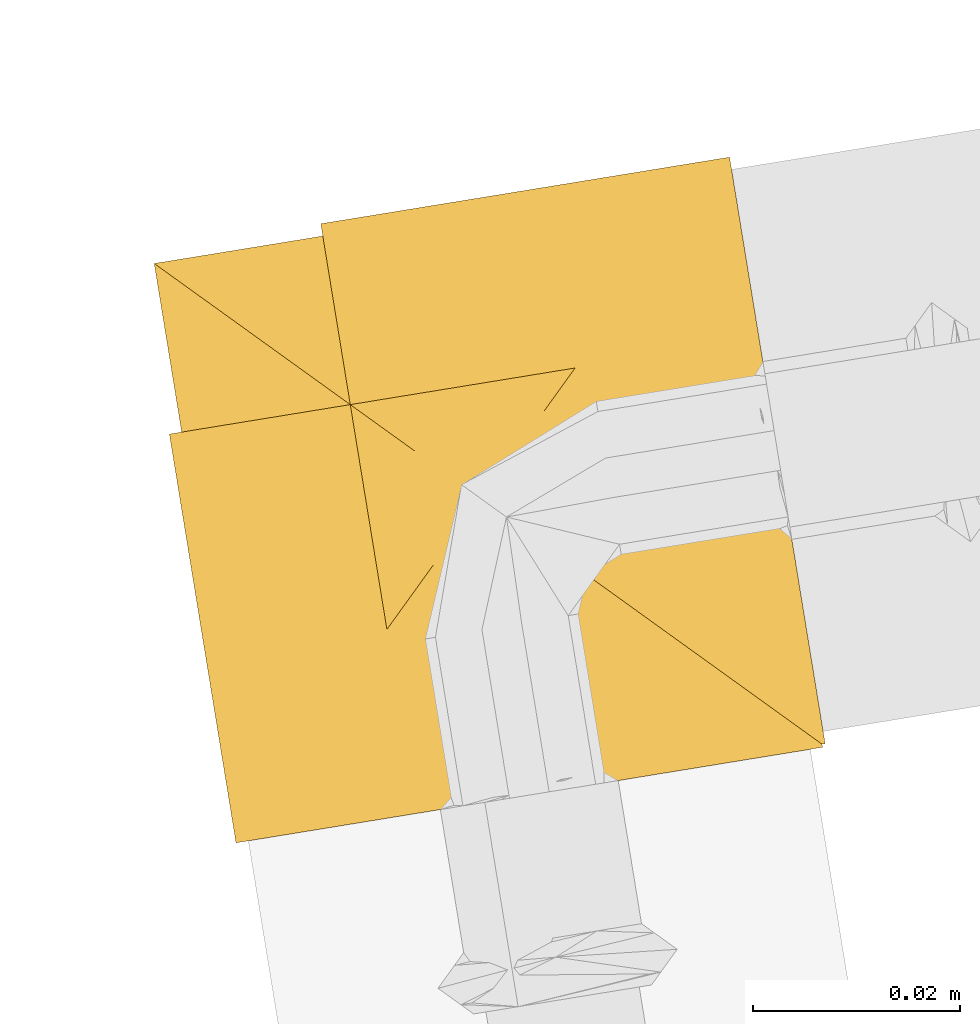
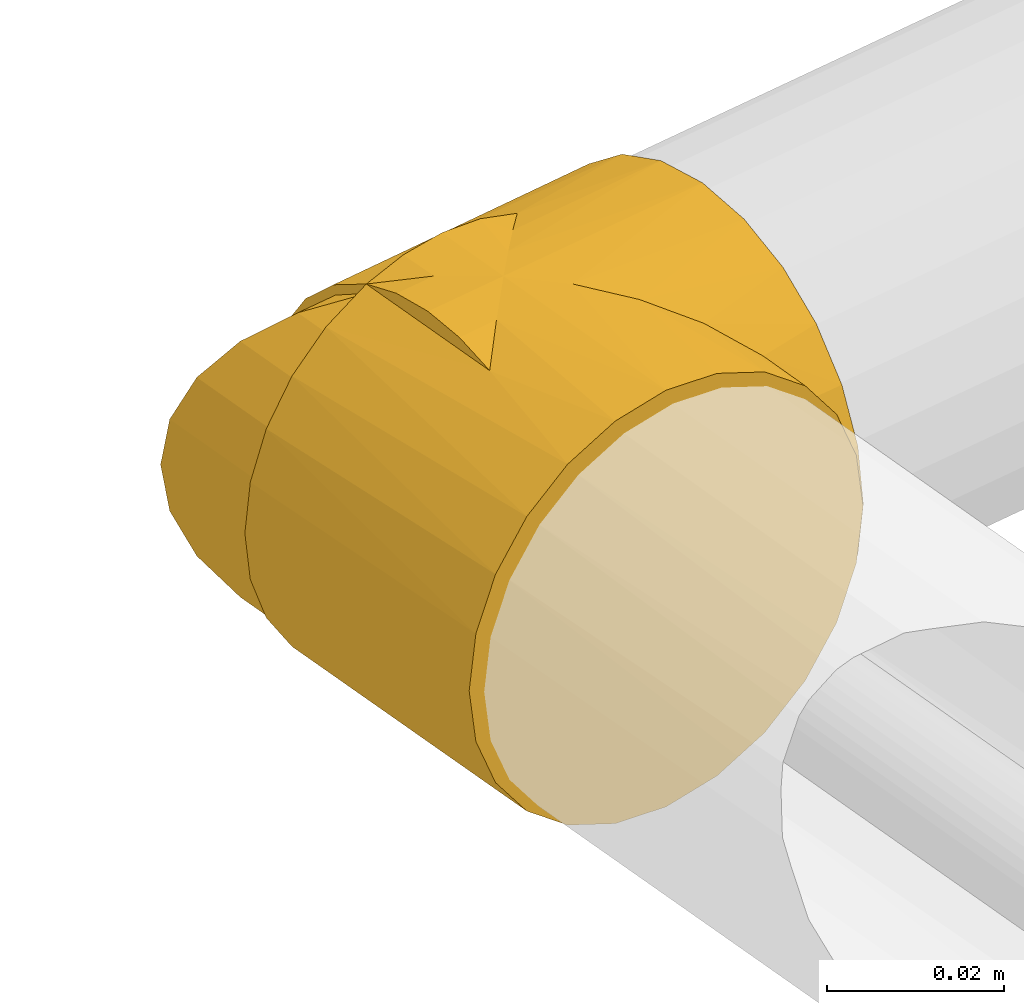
# One storey, part 16 of 46: 1 covering.
"""IFC2X3 building model written with IfcOpenShell, lengths in millimetres."""

from ifc_helpers import new_model, entity, si_unit, converted_unit, derived_unit, direction, frame, origin, origin_with_axes, place, context, subcontext, project, spatial, faceted_brep, material, type_object, element, save


model = new_model("IFC2X3")

# Units and contexts
model_context = context("Model", 3, precision=0.01, world=origin(), true_north=direction((6.12323399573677e-17, 1.0)))
plan_context = context("Plan", 3, precision=1e-05, world=origin_with_axes())
body_context = subcontext(model_context, "Body", "Model", "MODEL_VIEW")
ifc_project = project(units=[converted_unit("PLANEANGLEUNIT", "DEGREE", entity("IfcPositiveLengthMeasure", 0.0174532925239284), si_unit("PLANEANGLEUNIT", "RADIAN"), dimensions=[0, 0, 0, 0, 0, 0, 0]), si_unit("AREAUNIT", "SQUARE_METRE"), si_unit("LENGTHUNIT", "METRE", prefix="MILLI"), si_unit("MASSUNIT", "GRAM", prefix="KILO"), si_unit("POWERUNIT", "WATT"), si_unit("PRESSUREUNIT", "PASCAL", prefix="KILO"), si_unit("FORCEUNIT", "NEWTON", prefix="KILO"), si_unit("ELECTRICVOLTAGEUNIT", "VOLT"), si_unit("ELECTRICCURRENTUNIT", "AMPERE"), si_unit("THERMODYNAMICTEMPERATUREUNIT", "DEGREE_CELSIUS"), si_unit("TIMEUNIT", "SECOND"), si_unit("VOLUMEUNIT", "CUBIC_METRE"), derived_unit("LINEARVELOCITYUNIT", [(si_unit("LENGTHUNIT", "METRE"), 1), (si_unit("TIMEUNIT", "SECOND"), -1)]), derived_unit("VOLUMETRICFLOWRATEUNIT", [(si_unit("VOLUMEUNIT", "CUBIC_METRE"), 1), (si_unit("TIMEUNIT", "SECOND"), -1)]), derived_unit("THERMALTRANSMITTANCEUNIT", [(si_unit("POWERUNIT", "WATT"), 1), (si_unit("THERMODYNAMICTEMPERATUREUNIT", "KELVIN"), -1), (si_unit("AREAUNIT", "SQUARE_METRE"), -1)]), derived_unit("SOUNDPRESSUREUNIT", [(si_unit("PRESSUREUNIT", "PASCAL"), 1)])], contexts=[model_context, plan_context])

# Site, building, storey
site_placement = place(None, frame((-3.09682673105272e-06, 1.93776733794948e-05, 0.0), z_axis=(0.0, 0.0, 1.0), x_axis=(-0.160806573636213, 0.986985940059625, 0.0)))
site = spatial("IfcSite", under=ifc_project, at=site_placement, Name="Default", CompositionType="ELEMENT")
building_placement = place(site_placement, frame((0.0, 0.0, 0.0), z_axis=(0.0, 0.0, 1.0), x_axis=(1.0, -2.77555756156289e-17, 0.0)))
building = spatial("IfcBuilding", under=site, at=building_placement, Name="Bygning (endres i Project Information)", CompositionType="ELEMENT")
storey_placement = place(building_placement, frame((0.0, 0.0, 51360.0000000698), z_axis=(0.0, 0.0, 1.0), x_axis=(1.0, -2.77555756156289e-17, 0.0)))
storey = spatial("IfcBuildingStorey", under=building, at=storey_placement, Name="H01-Nivå D+0,36", CompositionType="ELEMENT", Elevation=51360.0000000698)

# Covering
ifc_material = material(Name="3200.002 Retur")
covering_type = type_object("IfcCoveringType", Name="Pipe Insulation:GLAVA Rørskål ClimPipe Alu2, isol.kl.4, 45°C", PredefinedType="INSULATION")
covering_placement = place(storey_placement, frame((1008456.80431555, -353521.375411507, 3419.70472776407), z_axis=(0.0, 0.0, 1.0), x_axis=(1.0, -2.77555756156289e-17, 0.0)))
element("IfcCovering", 1, at=covering_placement, inside=storey, type_object=covering_type, material=ifc_material, Name="Pipe Insulation:GLAVA Rørskål ClimPipe Alu2, isol.kl.4, 45°C", ObjectType="Pipe Insulation:GLAVA Rørskål ClimPipe Alu2, isol.kl.4, 45°C", PredefinedType="INSULATION", context=body_context, shape_type="Brep", body=[
    faceted_brep([(24.7416617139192, 35.8488827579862, 2.13772599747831), (1.29527223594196, 30.2952722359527, 1.5952722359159), (1.29527223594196, 37.7233788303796, 2.57320102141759), (19.2952722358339, 41.2952722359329, 3.78697164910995), (1.29527223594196, 44.6452722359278, 5.44034314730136), (41.2952722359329, 47.174961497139, 7.083936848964), (23.1326814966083, 37.4578629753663, 2.62494852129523), (30.2952722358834, 30.2952722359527, 1.5952722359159), (35.8488827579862, 35.8488827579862, 2.13772599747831), (41.2952722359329, 30.2952722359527, 1.5952722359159), (36.1408637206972, 30.2952722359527, 1.5952722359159), (41.2952722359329, 41.2952722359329, 3.78697164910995), (1.29527223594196, 50.5892368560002, 10.0013076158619), (41.2952722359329, 52.1237458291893, 11.6617610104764), (1.29527223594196, 55.1502013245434, 15.945272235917), (41.2952722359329, 55.8686217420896, 17.2686151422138), (1.29527223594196, 58.0173434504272, 22.8671656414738), (41.2952722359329, 58.202154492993, 23.5948302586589), (1.29527223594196, 58.9952722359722, 30.295272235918), (41.2952722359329, 58.9952722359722, 30.295272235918), (41.2952722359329, 58.202154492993, 36.9957142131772), (1.29527223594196, 58.0173434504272, 37.7233788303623), (1.29527223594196, 55.1502013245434, 44.6452722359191), (1.29527223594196, 50.5892368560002, 50.5892368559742), (41.2952722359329, 52.1237458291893, 48.9287834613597), (41.2952722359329, 55.8686217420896, 43.3219293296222), (41.2952722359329, 47.174961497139, 53.5066076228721), (1.29527223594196, 44.6452722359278, 55.1502013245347), (19.2952722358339, 41.2952722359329, 56.8035728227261), (1.29527223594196, 37.7233788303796, 58.0173434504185), (24.7416617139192, 35.8488827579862, 58.4528184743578), (23.1326815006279, 37.4578629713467, 57.965595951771), (1.29527223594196, 30.2952722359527, 58.9952722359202), (41.2952722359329, 41.2952722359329, 56.8035728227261), (30.2952722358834, 30.2952722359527, 58.9952722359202), (35.8488827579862, 35.8488827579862, 58.4528184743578), (36.1408640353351, 30.2952722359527, 58.9952722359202), (41.2952722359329, 30.2952722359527, 58.9952722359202), (24.7843162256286, 24.7843162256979, 58.4611978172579), (1.29527223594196, 22.8671656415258, 58.0173434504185), (1.29527223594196, 2.93159378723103, 38.5886155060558), (2.63637773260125, 2.63637773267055, 37.9552692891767), (2.98876332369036, 2.98876332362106, 38.7947891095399), (1.29527223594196, 3.28998655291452, 39.4538521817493), (19.3782398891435, 19.3782398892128, 56.8378494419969), (1.29527223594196, 15.9452722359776, 55.1502013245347), (1.29527223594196, 2.45095992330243, 36.7948655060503), (2.441170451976, 2.4411704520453, 36.5190198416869), (2.50623954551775, 2.50623954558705, 36.9977696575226), (1.29527223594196, 2.26759827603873, 35.4020955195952), (2.24596317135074, 2.24596317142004, 35.0827703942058), (2.31103226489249, 2.3110322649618, 35.5615202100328), (14.2100303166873, 14.2100303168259, 54.0640541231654), (1.29527223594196, 2.38983937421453, 36.3306088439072), (2.37610135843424, 2.37610135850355, 36.0402700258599), (1.29527223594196, 10.0013076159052, 50.5892368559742), (2.18089407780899, 2.18089407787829, 34.6040205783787), (1.29527223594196, 2.20647772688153, 34.9378388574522), (1.29527223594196, 2.14535717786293, 34.4735821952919), (1.29527223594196, 5.440343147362, 44.6452722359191), (9.46959024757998, 9.46959024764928, 50.0432080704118), (1.29527223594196, 4.00677208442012, 41.1843255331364), (3.34114891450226, 3.34114891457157, 39.6343089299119), (4.04592009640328, 4.04592009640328, 41.3133485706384), (1.29527223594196, 2.57320102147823, 37.7233788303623), (1.29527223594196, 2.08423662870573, 34.0093255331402), (2.05075589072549, 2.05075589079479, 33.6465209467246), (2.11582498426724, 2.11582498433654, 34.1252707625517), (1.29527223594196, 1.83975443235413, 32.1522988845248), (1.79047951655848, 1.79047951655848, 31.7315216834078), (1.85554861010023, 1.85554861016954, 32.2102714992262), (5.4554624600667, 5.455462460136, 44.6714278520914), (1.29527223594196, 2.32871882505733, 35.8663521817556), (1.29527223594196, 1.71751333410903, 31.2237855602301), (1.66034132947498, 1.66034132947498, 30.7740220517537), (1.72541042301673, 1.72541042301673, 31.2527718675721), (1.29527223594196, 1.90087498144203, 32.6165555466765), (1.98568679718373, 1.98568679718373, 33.1677711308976), (1.29527223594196, 2.02311607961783, 33.5450688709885), (1.29527223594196, 1.96199553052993, 33.0808122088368), (1.92061770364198, 1.92061770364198, 32.6890213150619), (1.29527223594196, 1.65639278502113, 30.7595288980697), (1.59527223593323, 1.59527223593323, 30.295272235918), (1.29527223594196, 1.77863388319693, 31.6880422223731), (1.29527223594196, 1.59527223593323, 30.295272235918), (41.2952722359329, 19.2952722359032, 3.78697164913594), (37.6827247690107, 22.9078197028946, 2.56233973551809), (41.2952722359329, 24.6773873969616, 2.15047929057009), (34.0045098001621, 26.586034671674, 1.83597574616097), (41.2952722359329, 41.2952722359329, 55.4994385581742), (41.2952722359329, 46.7924480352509, 52.2973901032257), (41.2952722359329, 51.4067482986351, 47.9178594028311), (41.2952722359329, 54.8912305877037, 42.5952247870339), (41.2952722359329, 57.0594166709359, 36.6143364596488), (41.2952722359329, 57.7952722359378, 30.295272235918), (41.2952722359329, 57.0594166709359, 23.9762080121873), (41.2952722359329, 54.8912305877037, 17.9953196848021), (41.2952722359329, 51.4067482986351, 12.672685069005), (41.2952722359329, 46.7924480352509, 8.29315436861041), (41.2952722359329, 41.2952722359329, 5.0911059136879), (41.2952722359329, 19.2952722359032, 56.8035728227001), (41.2952722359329, 35.9131570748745, 58.4400651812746), (41.2952722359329, 24.6773873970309, 58.440065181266), (41.2952722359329, 35.9131570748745, 2.15047929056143), (24.7843162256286, 24.7843162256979, 2.12934665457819), (30.2952722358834, 1.29527223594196, 1.5952722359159), (22.8671656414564, 1.29527223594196, 2.57320102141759), (2.20647772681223, 1.29527223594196, 25.6527056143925), (2.18089407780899, 2.18089407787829, 25.9865238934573), (2.24596317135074, 2.24596317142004, 25.5077740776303), (2.32871882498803, 1.29527223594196, 24.7241922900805), (2.31103226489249, 2.3110322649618, 25.0290242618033), (2.37610135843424, 2.37610135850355, 24.5502744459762), (19.3782398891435, 19.3782398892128, 3.75269502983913), (15.945272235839, 1.29527223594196, 5.44034314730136), (2.38983937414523, 1.29527223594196, 24.2599356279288), (2.441170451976, 2.4411704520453, 24.0715246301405), (3.28998655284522, 1.29527223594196, 21.1366922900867), (2.98876332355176, 2.98876332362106, 21.7957553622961), (3.34114891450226, 3.34114891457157, 20.9562355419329), (14.2100303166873, 14.2100303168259, 6.52649034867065), (2.11582498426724, 2.11582498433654, 26.4652737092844), (2.14535717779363, 1.29527223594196, 26.1169622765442), (2.08423662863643, 1.29527223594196, 26.5812189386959), (10.0013076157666, 1.29527223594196, 10.0013076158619), (9.46959024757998, 9.46959024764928, 10.5473364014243), (5.44034314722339, 1.29527223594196, 15.945272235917), (2.93159378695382, 1.29527223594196, 22.0019289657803), (2.63637773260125, 2.63637773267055, 22.6352751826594), (2.57320102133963, 1.29527223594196, 22.8671656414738), (2.45095992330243, 1.29527223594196, 23.7956789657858), (2.50623954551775, 2.50623954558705, 23.5927748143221), (2.05075589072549, 2.05075589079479, 26.9440235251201), (1.83975443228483, 1.29527223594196, 28.4382455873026), (1.79047951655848, 1.79047951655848, 28.8590227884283), (1.85554861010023, 1.85554861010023, 28.3802729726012), (5.4554624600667, 5.455462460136, 15.9191166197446), (4.04592009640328, 4.04592009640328, 19.2771959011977), (4.00677208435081, 1.29527223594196, 19.4062189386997), (2.26759827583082, 1.29527223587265, 25.1884489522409), (1.71751333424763, 1.29527223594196, 29.3667589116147), (1.66034132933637, 1.66034132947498, 29.8165224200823), (1.72541042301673, 1.72541042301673, 29.3377726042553), (1.90087498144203, 1.29527223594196, 27.973988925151), (1.98568679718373, 1.98568679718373, 27.4227733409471), (2.02311607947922, 1.29527223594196, 27.0454756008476), (1.96199553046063, 1.29527223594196, 27.5097322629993), (1.92061770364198, 1.92061770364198, 27.9015231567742), (1.65639278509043, 1.29527223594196, 29.8310155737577), (1.77863388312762, 1.29527223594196, 28.902502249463), (1.59527223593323, 1.29527223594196, 30.295272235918), (58.2021520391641, 41.2952722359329, 23.5948200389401), (58.9952722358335, 1.29527223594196, 30.295272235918), (58.0173434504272, 1.29527223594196, 22.8671656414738), (55.8686121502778, 41.2952722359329, 17.2685963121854), (55.1502013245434, 1.29527223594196, 15.945272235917), (52.1237252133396, 41.2952722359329, 11.6617368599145), (50.5892368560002, 1.29527223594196, 10.0013076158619), (58.9952722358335, 41.2952722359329, 30.295272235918), (47.1749272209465, 41.2952722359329, 7.08391192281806), (44.6452722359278, 1.29527223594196, 5.44034314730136), (37.7233788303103, 1.29527223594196, 2.57320102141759), (34.0045098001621, 26.586034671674, 58.7545687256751), (30.2952722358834, 1.29527223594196, 58.9952722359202), (37.7233788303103, 1.29527223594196, 58.0173434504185), (47.1749272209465, 41.2952722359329, 53.506632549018), (44.6452722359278, 1.29527223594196, 55.1502013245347), (37.6827247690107, 22.9078197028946, 58.028204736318), (52.1237252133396, 41.2952722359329, 48.9288076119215), (50.5892368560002, 1.29527223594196, 50.5892368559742), (55.1502013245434, 1.29527223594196, 44.6452722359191), (55.8686121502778, 41.2952722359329, 43.3219481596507), (58.0173434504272, 1.29527223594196, 37.7233788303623), (58.2021520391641, 41.2952722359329, 36.995724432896), (2.45095992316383, 1.29527223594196, 36.7948655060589), (2.57320102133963, 1.29527223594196, 37.7233788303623), (3.28998655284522, 1.29527223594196, 39.4538521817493), (2.93159378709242, 1.29527223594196, 38.5886155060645), (5.44034314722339, 1.29527223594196, 44.6452722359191), (4.00677208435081, 1.29527223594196, 41.1843255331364), (2.02311607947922, 1.29527223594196, 33.5450688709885), (2.08423662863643, 1.29527223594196, 34.0093255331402), (2.20647772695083, 1.29527223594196, 34.9378388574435), (2.26759827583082, 1.29527223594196, 35.4020955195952), (2.38983937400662, 1.29527223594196, 36.3306088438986), (10.0013076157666, 1.29527223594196, 50.5892368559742), (15.945272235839, 1.29527223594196, 55.1502013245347), (22.8671656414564, 1.29527223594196, 58.0173434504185), (1.77863388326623, 1.29527223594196, 31.6880422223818), (1.83975443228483, 1.29527223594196, 32.1522988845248), (2.14535717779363, 1.29527223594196, 34.4735821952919), (2.32871882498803, 1.29527223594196, 35.8663521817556), (1.96199553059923, 1.29527223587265, 33.0808122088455), (1.65639278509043, 1.29527223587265, 30.7595288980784), (1.71751333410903, 1.29527223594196, 31.2237855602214), (1.90087498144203, 1.29527223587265, 32.6165555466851), (24.6773873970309, 41.2952722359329, 58.4400651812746), (30.2952722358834, 41.2952722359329, 58.9952722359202), (35.91313128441, 41.2952722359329, 58.440070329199), (46.7924480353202, 41.2952722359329, 8.2931543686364), (51.4067482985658, 41.2952722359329, 12.672685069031), (54.8912305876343, 41.2952722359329, 17.9953196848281), (57.0594166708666, 41.2952722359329, 23.976208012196), (57.7952722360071, 41.2952722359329, 30.295272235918), (57.0594166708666, 41.2952722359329, 36.6143364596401), (54.8912305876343, 41.2952722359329, 42.595224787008), (51.4067482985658, 41.2952722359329, 47.9178594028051), (46.7924480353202, 41.2952722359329, 52.2973901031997), (35.91313128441, 41.2952722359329, 2.15047414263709), (30.2952722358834, 41.2952722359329, 1.5952722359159), (24.6773873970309, 41.2952722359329, 2.15047929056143), (37.4578628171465, 37.4578628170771, 57.9655959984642), (37.4578629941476, 37.4578629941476, 2.62494852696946), (1.29527223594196, 22.8671656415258, 2.57320102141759), (1.29527223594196, 15.9452722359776, 5.44034314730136), (1.29527223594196, 10.0013076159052, 10.0013076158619), (1.29527223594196, 5.440343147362, 15.945272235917), (1.29527223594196, 4.00677208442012, 19.406218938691), (1.29527223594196, 3.28998655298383, 21.1366922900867), (1.29527223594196, 2.93159378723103, 22.0019289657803), (1.29527223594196, 2.57320102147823, 22.8671656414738), (1.29527223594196, 2.45095992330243, 23.7956789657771), (1.29527223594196, 2.38983937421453, 24.2599356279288), (1.29527223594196, 2.32871882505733, 24.7241922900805), (1.29527223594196, 2.26759827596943, 25.1884489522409), (1.29527223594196, 2.20647772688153, 25.6527056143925), (1.29527223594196, 2.14535717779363, 26.1169622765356), (1.29527223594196, 2.08423662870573, 26.5812189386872), (1.29527223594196, 2.02311607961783, 27.0454756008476), (1.29527223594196, 1.96199553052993, 27.5097322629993), (1.29527223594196, 1.90087498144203, 27.973988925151), (1.29527223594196, 1.83975443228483, 28.4382455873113), (1.29527223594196, 1.77863388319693, 28.902502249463), (1.29527223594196, 1.71751333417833, 29.366758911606), (1.29527223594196, 1.65639278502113, 29.8310155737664), (57.7952722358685, 57.7952722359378, 30.295272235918), (57.0592658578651, 57.0592658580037, 36.6149751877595), (54.8902833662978, 54.8902833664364, 42.5971187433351), (51.4048186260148, 51.4048186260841, 47.9201708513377), (46.7907227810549, 46.7907227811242, 52.2986835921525), (46.7907227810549, 46.7907227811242, 8.29186087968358), (51.4048186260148, 51.4048186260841, 12.6703736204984), (54.8902833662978, 54.8902833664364, 17.993425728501), (57.0592658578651, 57.0592658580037, 23.9755692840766)], [[[0, 1, 2]], [[3, 4, 5]], [[4, 3, 2]], [[2, 3, 6, 0]], [[0, 7, 1]], [[8, 9, 10, 7]], [[3, 5, 11]], [[4, 12, 5]], [[13, 12, 14]], [[15, 14, 16]], [[17, 16, 18]], [[13, 14, 15]], [[15, 16, 17]], [[18, 19, 17]], [[12, 13, 5]], [[20, 18, 21]], [[22, 23, 24]], [[25, 21, 22]], [[19, 18, 20]], [[24, 25, 22]], [[21, 25, 20]], [[23, 26, 24]], [[27, 28, 26]], [[28, 27, 29]], [[29, 30, 31, 28]], [[30, 29, 32]], [[26, 28, 33]], [[34, 30, 32]], [[35, 34, 36, 37]], [[27, 26, 23]], [[38, 32, 39]], [[40, 41, 42]], [[42, 43, 40]], [[44, 39, 45]], [[46, 47, 48]], [[38, 34, 32]], [[49, 50, 51]], [[52, 44, 45]], [[38, 39, 44]], [[53, 54, 47]], [[45, 55, 52]], [[56, 57, 58]], [[55, 59, 60]], [[61, 62, 63]], [[40, 64, 41]], [[43, 42, 62]], [[62, 61, 43]], [[65, 66, 67]], [[68, 69, 70]], [[71, 60, 59]], [[59, 63, 71]], [[48, 41, 64]], [[61, 63, 59]], [[67, 58, 65]], [[72, 51, 54]], [[55, 60, 52]], [[57, 56, 50]], [[48, 64, 46]], [[50, 49, 57]], [[54, 53, 72]], [[73, 74, 75]], [[58, 67, 56]], [[70, 76, 68]], [[77, 78, 79]], [[47, 46, 53]], [[51, 72, 49]], [[80, 79, 76]], [[78, 77, 66]], [[79, 80, 77]], [[66, 65, 78]], [[81, 82, 74]], [[75, 83, 73]], [[76, 70, 80]], [[83, 75, 69]], [[69, 68, 83]], [[82, 81, 84]], [[74, 73, 81]], [[85, 86, 87]], [[88, 7, 10]], [[87, 86, 88]], [[10, 9, 87]], [[10, 87, 88]], [[15, 17, 19, 20, 25, 24, 26, 33, 89, 90, 91, 92, 93, 94, 95, 96, 97, 98, 99, 11, 5, 13]], [[100, 33, 101, 37, 102]], [[9, 103, 11, 85, 87]], [[104, 105, 106]], [[107, 108, 109]], [[110, 111, 112]], [[113, 106, 114]], [[115, 112, 116]], [[104, 7, 105]], [[117, 118, 119]], [[120, 113, 114]], [[104, 106, 113]], [[121, 122, 123]], [[114, 124, 120]], [[108, 107, 122]], [[125, 124, 126]], [[127, 128, 118]], [[128, 127, 129]], [[118, 117, 127]], [[130, 116, 131]], [[123, 132, 121]], [[133, 134, 135]], [[136, 125, 126]], [[126, 137, 136]], [[131, 128, 129]], [[138, 137, 126]], [[138, 119, 137]], [[139, 109, 111]], [[124, 125, 120]], [[131, 129, 130]], [[119, 138, 117]], [[109, 139, 107]], [[112, 115, 110]], [[140, 141, 142]], [[122, 121, 108]], [[135, 143, 133]], [[144, 145, 146]], [[116, 130, 115]], [[111, 110, 139]], [[147, 146, 143]], [[145, 144, 132]], [[146, 147, 144]], [[132, 123, 145]], [[148, 82, 141]], [[142, 149, 140]], [[143, 135, 147]], [[149, 142, 134]], [[134, 133, 149]], [[82, 148, 150]], [[141, 140, 148]], [[151, 152, 153]], [[154, 153, 155]], [[156, 155, 157]], [[151, 158, 152]], [[154, 151, 153]], [[155, 156, 154]], [[157, 159, 156]], [[160, 85, 159]], [[85, 160, 161]], [[85, 161, 86]], [[88, 161, 105]], [[159, 85, 11]], [[88, 86, 161]], [[7, 88, 105]], [[160, 159, 157]], [[162, 163, 164]], [[33, 100, 165]], [[166, 100, 164]], [[167, 164, 100]], [[162, 34, 163]], [[162, 164, 167]], [[100, 166, 165]], [[168, 169, 170]], [[171, 170, 172]], [[173, 172, 152]], [[165, 169, 168]], [[171, 168, 170]], [[172, 173, 171]], [[152, 158, 173]], [[169, 165, 166]], [[48, 174, 175]], [[176, 42, 177]], [[178, 63, 179]], [[178, 71, 63]], [[179, 63, 62]], [[180, 181, 66]], [[50, 182, 183]], [[60, 71, 178]], [[41, 177, 42]], [[184, 174, 47]], [[178, 185, 60]], [[182, 50, 56]], [[52, 185, 186]], [[176, 62, 42]], [[186, 187, 44]], [[179, 62, 176]], [[41, 175, 177]], [[163, 38, 187]], [[188, 189, 69]], [[44, 52, 186]], [[56, 67, 190]], [[34, 38, 163]], [[44, 187, 38]], [[175, 41, 48]], [[67, 181, 190]], [[185, 52, 60]], [[51, 183, 191]], [[184, 54, 191]], [[182, 56, 190]], [[192, 77, 80]], [[174, 48, 47]], [[191, 54, 51]], [[77, 192, 180]], [[181, 67, 66]], [[50, 183, 51]], [[54, 184, 47]], [[74, 193, 194]], [[195, 80, 70]], [[77, 180, 66]], [[70, 189, 195]], [[75, 194, 188]], [[189, 70, 69]], [[192, 80, 195]], [[193, 82, 150]], [[75, 188, 69]], [[194, 75, 74]], [[82, 193, 74]], [[33, 28, 196, 197, 198]], [[11, 99, 199, 200, 201, 202, 203, 204, 205, 206, 207, 89, 33, 165, 168, 171, 173, 158, 151, 154, 156, 159]], [[208, 209, 210, 3, 11]], [[187, 186, 185, 178, 179, 176, 177, 175, 174, 184, 191, 183, 182, 190, 181, 180, 192, 195, 189, 188, 194, 193, 150, 148, 140, 149, 133, 143, 146, 145, 123, 122, 107, 126, 124, 114, 106, 105, 161, 160, 157, 155, 153, 152, 172, 170, 169, 166, 164, 163]], [[126, 110, 115, 130, 129, 127, 117, 138]], [[196, 28, 31, 30]], [[30, 34, 197]], [[30, 197, 196]], [[197, 34, 35]], [[211, 33, 198, 35]], [[35, 198, 197]], [[208, 11, 212, 8]], [[8, 7, 209]], [[8, 209, 208]], [[209, 7, 0]], [[6, 3, 210, 0]], [[0, 210, 209]], [[29, 27, 23, 22, 21, 18, 16, 14, 12, 4, 2, 1, 213, 214, 215, 216, 217, 218, 219, 220, 221, 222, 223, 224, 225, 226, 227, 228, 229, 230, 231, 232, 233, 234, 84, 81, 73, 83, 68, 76, 79, 78, 65, 58, 57, 49, 72, 53, 46, 64, 40, 43, 61, 59, 55, 45, 39, 32]], [[101, 33, 211, 35]], [[35, 37, 101]], [[36, 34, 162]], [[36, 102, 37]], [[102, 167, 100]], [[167, 102, 162]], [[102, 36, 162]], [[131, 221, 220]], [[111, 224, 223]], [[121, 227, 226]], [[216, 136, 137]], [[217, 137, 119]], [[228, 227, 132]], [[109, 225, 224]], [[125, 136, 216]], [[128, 219, 118]], [[218, 119, 118]], [[216, 215, 125]], [[108, 121, 226]], [[120, 215, 214]], [[216, 137, 217]], [[213, 1, 104]], [[128, 220, 219]], [[217, 119, 218]], [[113, 214, 213]], [[220, 128, 131]], [[113, 120, 214]], [[232, 231, 134]], [[7, 104, 1]], [[113, 213, 104]], [[222, 221, 116]], [[225, 109, 108]], [[215, 120, 125]], [[222, 112, 223]], [[218, 118, 219]], [[225, 108, 226]], [[229, 144, 147]], [[221, 131, 116]], [[223, 112, 111]], [[144, 229, 228]], [[227, 121, 132]], [[109, 224, 111]], [[112, 222, 116]], [[141, 234, 233]], [[230, 147, 135]], [[144, 228, 132]], [[135, 231, 230]], [[142, 233, 232]], [[231, 135, 134]], [[229, 147, 230]], [[234, 82, 84]], [[142, 232, 134]], [[233, 142, 141]], [[82, 234, 141]], [[212, 11, 103, 8]], [[8, 103, 9]], [[235, 236, 203]], [[204, 203, 236]], [[237, 205, 204]], [[204, 236, 237]], [[205, 238, 206]], [[206, 238, 239]], [[239, 207, 206]], [[207, 239, 89]], [[238, 205, 237]], [[240, 241, 200]], [[199, 99, 240]], [[200, 199, 240]], [[241, 201, 200]], [[202, 242, 243]], [[203, 243, 235]], [[202, 201, 242]], [[203, 202, 243]], [[242, 201, 241]], [[236, 93, 237]], [[235, 94, 236]], [[236, 94, 93]], [[93, 92, 237]], [[90, 89, 239]], [[91, 90, 239]], [[238, 237, 92]], [[238, 91, 239]], [[238, 92, 91]], [[98, 97, 240]], [[98, 240, 99]], [[240, 97, 241]], [[97, 96, 241]], [[95, 94, 243]], [[96, 95, 242]], [[95, 243, 242]], [[243, 94, 235]], [[96, 242, 241]], [[126, 107, 139]], [[126, 139, 110]]]),
])

save(model, "model.ifc")
